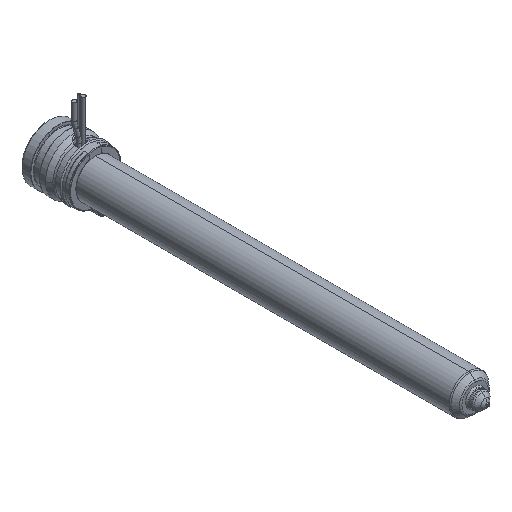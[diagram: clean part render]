
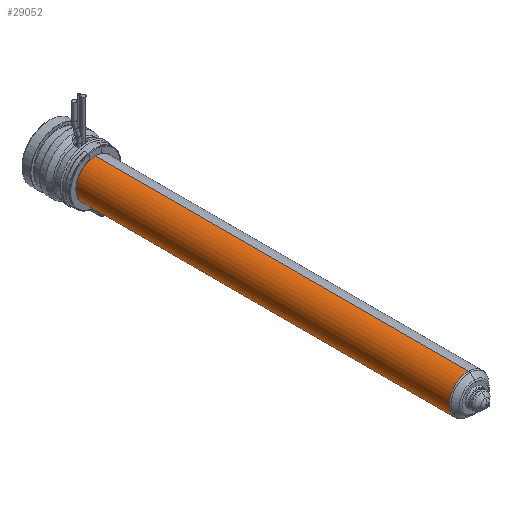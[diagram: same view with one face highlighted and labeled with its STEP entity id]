
A CAD part, isometric view. The second image highlights one B-rep face of the part: STEP entity #29052.
In plain terms, the highlighted cylindrical face has radius 9 mm (diameter 18 mm), a partial arc.
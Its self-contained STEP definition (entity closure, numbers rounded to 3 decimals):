
#28443=CARTESIAN_POINT('',(0.,-195.836,0.));
#28444=DIRECTION('',(0.,-1.,0.));
#28445=DIRECTION('',(0.,0.,1.));
#28446=AXIS2_PLACEMENT_3D('',#28443,#28444,#28445);
#28451=CARTESIAN_POINT('',(0.,-22.,0.));
#28452=DIRECTION('',(0.,-1.,0.));
#28453=DIRECTION('',(0.,0.,1.));
#28454=AXIS2_PLACEMENT_3D('',#28451,#28452,#28453);
#28459=DIRECTION('',(0.,-1.,0.));
#28460=VECTOR('',#28459,173.836);
#28461=CARTESIAN_POINT('',(0.,-22.,9.));
#28462=LINE('',#28461,#28460);
#28474=DIRECTION('',(0.,-1.,0.));
#28475=VECTOR('',#28474,173.836);
#28476=CARTESIAN_POINT('',(0.,-22.,-9.));
#28477=LINE('',#28476,#28475);
#28669=CARTESIAN_POINT('',(0.,-22.,9.));
#28670=CARTESIAN_POINT('',(0.,-195.836,9.));
#28671=VERTEX_POINT('',#28669);
#28672=VERTEX_POINT('',#28670);
#28695=CARTESIAN_POINT('',(0.,-22.,-9.));
#28696=CARTESIAN_POINT('',(0.,-195.836,-9.));
#28697=VERTEX_POINT('',#28695);
#28698=VERTEX_POINT('',#28696);
#29038=CARTESIAN_POINT('',(0.,-8.625,0.));
#29039=DIRECTION('',(0.,-1.,0.));
#29040=DIRECTION('',(0.,0.,1.));
#29041=AXIS2_PLACEMENT_3D('',#29038,#29039,#29040);
#29042=CYLINDRICAL_SURFACE('',#29041,9.);
#29044=ORIENTED_EDGE('',*,*,#29043,.T.);
#29045=ORIENTED_EDGE('',*,*,#29033,.T.);
#29047=ORIENTED_EDGE('',*,*,#29046,.F.);
#29049=ORIENTED_EDGE('',*,*,#29048,.F.);
#29050=EDGE_LOOP('',(#29044,#29045,#29047,#29049));
#29051=FACE_OUTER_BOUND('',#29050,.F.);
#29052=ADVANCED_FACE('',(#29051),#29042,.T.);
#28447=CIRCLE('',#28446,9.);
#28455=CIRCLE('',#28454,9.);
#29033=EDGE_CURVE('',#28672,#28698,#28447,.T.);
#29043=EDGE_CURVE('',#28671,#28672,#28462,.T.);
#29046=EDGE_CURVE('',#28697,#28698,#28477,.T.);
#29048=EDGE_CURVE('',#28671,#28697,#28455,.T.);
